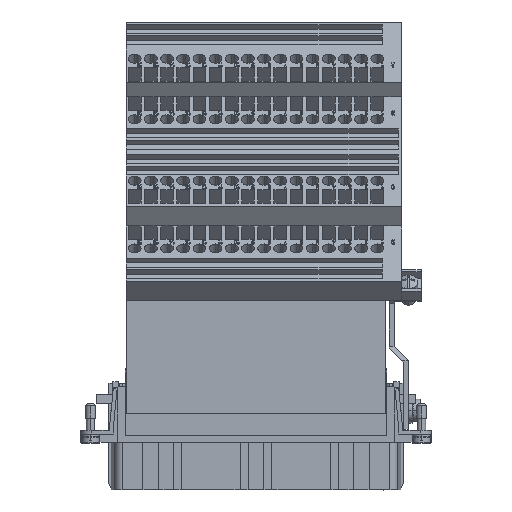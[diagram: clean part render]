
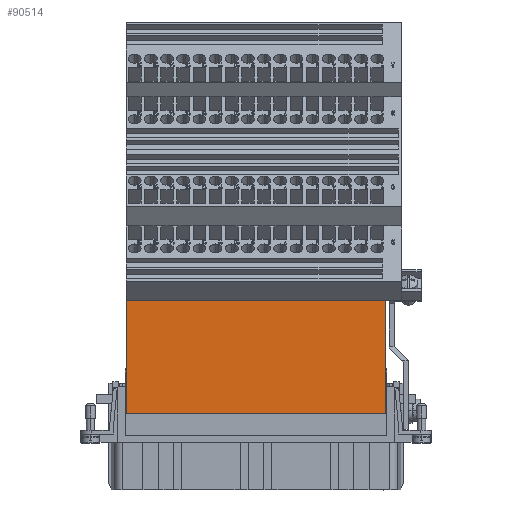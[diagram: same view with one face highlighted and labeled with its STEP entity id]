
A CAD part, top view. The second image highlights one B-rep face of the part: STEP entity #90514.
In plain terms, the highlighted planar face has unit normal (0, 0, 1).
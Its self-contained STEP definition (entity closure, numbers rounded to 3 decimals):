
#5399 = CARTESIAN_POINT ( 'NONE',  ( 0., 9., 15.5 ) ) ;
#5727 = AXIS2_PLACEMENT_3D ( 'NONE', #9042, #91290, #42040 ) ;
#6650 = VERTEX_POINT ( 'NONE', #44614 ) ;
#6683 = VERTEX_POINT ( 'NONE', #29874 ) ;
#9042 = CARTESIAN_POINT ( 'NONE',  ( 0., 9., 15.5 ) ) ;
#11602 = CARTESIAN_POINT ( 'NONE',  ( 40.75, 27.405, 15.5 ) ) ;
#11697 = EDGE_LOOP ( 'NONE', ( #45401, #84826, #22802, #96717 ) ) ;
#19588 = EDGE_CURVE ( 'NONE', #22958, #6650, #62307, .T. ) ;
#22802 = ORIENTED_EDGE ( 'NONE', *, *, #19588, .F. ) ;
#22958 = VERTEX_POINT ( 'NONE', #77782 ) ;
#23770 = VECTOR ( 'NONE', #69078, 1000. ) ;
#27481 = EDGE_CURVE ( 'NONE', #6683, #22958, #34088, .T. ) ;
#28968 = CARTESIAN_POINT ( 'NONE',  ( -40.75, 44.5, 15.5 ) ) ;
#29874 = CARTESIAN_POINT ( 'NONE',  ( -40.75, 44.5, 15.5 ) ) ;
#33764 = PLANE ( 'NONE',  #5727 ) ;
#34088 = LINE ( 'NONE', #28968, #97099 ) ;
#34258 = EDGE_CURVE ( 'NONE', #6650, #48348, #102109, .T. ) ;
#42040 = DIRECTION ( 'NONE',  ( 1., 0., 0. ) ) ;
#43854 = CARTESIAN_POINT ( 'NONE',  ( -40.75, 27.405, 15.5 ) ) ;
#44614 = CARTESIAN_POINT ( 'NONE',  ( 40.75, 9., 15.5 ) ) ;
#45401 = ORIENTED_EDGE ( 'NONE', *, *, #102703, .F. ) ;
#45675 = VECTOR ( 'NONE', #101680, 1000. ) ;
#45986 = DIRECTION ( 'NONE',  ( -1., 0., 0. ) ) ;
#46878 = FACE_OUTER_BOUND ( 'NONE', #11697, .T. ) ;
#48279 = LINE ( 'NONE', #43854, #45675 ) ;
#48348 = VERTEX_POINT ( 'NONE', #61852 ) ;
#61852 = CARTESIAN_POINT ( 'NONE',  ( -40.75, 9., 15.5 ) ) ;
#62307 = LINE ( 'NONE', #11602, #23770 ) ;
#69078 = DIRECTION ( 'NONE',  ( 0., -1., 0. ) ) ;
#77782 = CARTESIAN_POINT ( 'NONE',  ( 40.75, 44.5, 15.5 ) ) ;
#82885 = VECTOR ( 'NONE', #45986, 1000. ) ;
#84826 = ORIENTED_EDGE ( 'NONE', *, *, #34258, .F. ) ;
#90514 = ADVANCED_FACE ( 'NONE', ( #46878 ), #33764, .T. ) ;
#91290 = DIRECTION ( 'NONE',  ( 0., 0., 1. ) ) ;
#94740 = DIRECTION ( 'NONE',  ( 1., 0., 0. ) ) ;
#96717 = ORIENTED_EDGE ( 'NONE', *, *, #27481, .F. ) ;
#97099 = VECTOR ( 'NONE', #94740, 1000. ) ;
#101680 = DIRECTION ( 'NONE',  ( 0., 1., 0. ) ) ;
#102109 = LINE ( 'NONE', #5399, #82885 ) ;
#102703 = EDGE_CURVE ( 'NONE', #48348, #6683, #48279, .T. ) ;
